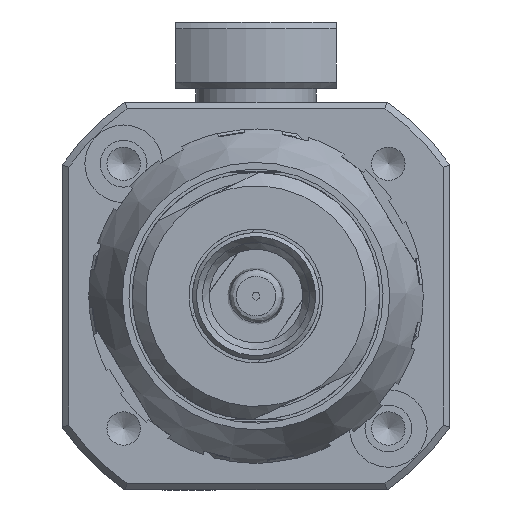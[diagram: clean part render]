
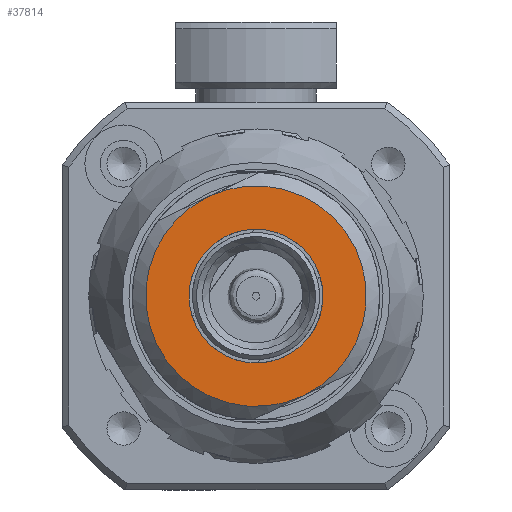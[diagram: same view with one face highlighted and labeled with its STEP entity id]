
A CAD part, front view. The second image highlights one B-rep face of the part: STEP entity #37814.
In plain terms, the highlighted planar face has unit normal (0, -1, 0).
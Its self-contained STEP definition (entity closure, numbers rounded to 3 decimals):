
#655 = CARTESIAN_POINT ( 'NONE',  ( -7.444, -82.732, 132.7 ) ) ;
#791 = VERTEX_POINT ( 'NONE', #3776 ) ;
#1887 = DIRECTION ( 'NONE',  ( 0., 1., 0. ) ) ;
#2515 = CARTESIAN_POINT ( 'NONE',  ( -6.157, -82.732, 129.99 ) ) ;
#2751 = DIRECTION ( 'NONE',  ( 0., 1., 0. ) ) ;
#2864 = DIRECTION ( 'NONE',  ( 0., 1., 0. ) ) ;
#3559 = AXIS2_PLACEMENT_3D ( 'NONE', #3772, #41957, #15093 ) ;
#3772 = CARTESIAN_POINT ( 'NONE',  ( -7.444, -82.732, 132.7 ) ) ;
#3776 = CARTESIAN_POINT ( 'NONE',  ( -3.903, -82.732, 125.249 ) ) ;
#5094 = EDGE_LOOP ( 'NONE', ( #21889 ) ) ;
#6366 = ORIENTED_EDGE ( 'NONE', *, *, #11262, .F. ) ;
#9806 = AXIS2_PLACEMENT_3D ( 'NONE', #16717, #1887, #40816 ) ;
#9894 = PLANE ( 'NONE',  #13966 ) ;
#10564 = EDGE_LOOP ( 'NONE', ( #6366, #11289 ) ) ;
#10758 = CIRCLE ( 'NONE', #3559, 3. ) ;
#11262 = EDGE_CURVE ( 'NONE', #791, #41921, #21570, .T. ) ;
#11289 = ORIENTED_EDGE ( 'NONE', *, *, #49571, .F. ) ;
#13966 = AXIS2_PLACEMENT_3D ( 'NONE', #29766, #2864, #21222 ) ;
#14430 = FACE_BOUND ( 'NONE', #5094, .T. ) ;
#15093 = DIRECTION ( 'NONE',  ( 0.429, 0., -0.903 ) ) ;
#16717 = CARTESIAN_POINT ( 'NONE',  ( -7.444, -82.732, 132.7 ) ) ;
#18069 = DIRECTION ( 'NONE',  ( -0.429, 0., 0.903 ) ) ;
#19276 = EDGE_CURVE ( 'NONE', #29913, #29913, #10758, .T. ) ;
#21222 = DIRECTION ( 'NONE',  ( -0.429, 0., 0.903 ) ) ;
#21570 = CIRCLE ( 'NONE', #40811, 8.25 ) ;
#21889 = ORIENTED_EDGE ( 'NONE', *, *, #19276, .F. ) ;
#28256 = CIRCLE ( 'NONE', #9806, 8.25 ) ;
#29766 = CARTESIAN_POINT ( 'NONE',  ( -4.735, -82.732, 133.988 ) ) ;
#29913 = VERTEX_POINT ( 'NONE', #2515 ) ;
#33239 = FACE_OUTER_BOUND ( 'NONE', #10564, .T. ) ;
#33432 = CARTESIAN_POINT ( 'NONE',  ( -10.986, -82.732, 140.151 ) ) ;
#37814 = ADVANCED_FACE ( 'NONE', ( #33239, #14430 ), #9894, .F. ) ;
#40811 = AXIS2_PLACEMENT_3D ( 'NONE', #655, #2751, #18069 ) ;
#40816 = DIRECTION ( 'NONE',  ( -0.429, 0., 0.903 ) ) ;
#41921 = VERTEX_POINT ( 'NONE', #33432 ) ;
#41957 = DIRECTION ( 'NONE',  ( 0., -1., 0. ) ) ;
#49571 = EDGE_CURVE ( 'NONE', #41921, #791, #28256, .T. ) ;
